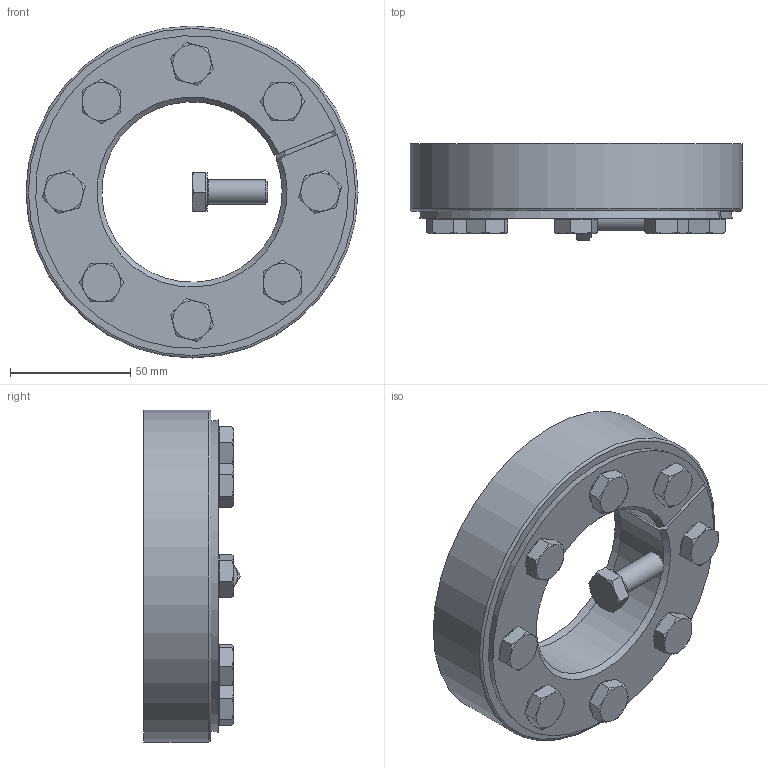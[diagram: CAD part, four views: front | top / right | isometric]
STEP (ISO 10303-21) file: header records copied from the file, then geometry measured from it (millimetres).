
FILE_DESCRIPTION( ( 'Unknown' ), '1' );
FILE_NAME( 'C:/Dokumente und Einstellungen/Sven/Desktop/homepage/cad - homepage/KBS19-1/KBS 19_1 - 75 x 138.stp', 'Unknown', ( 'Unknown' ), ( 'Unknown' ), 'XStep 1.0', 'Unknown', ' ' );
FILE_SCHEMA( ( 'automotive_design' ) );
Length unit declared in the file: millimetre
Products named in the file (3): Assem1; KBS 19_1 - 75 x 138; ISO 4017 - M10 x 25-N
Bounding box: 138 x 40.24 x 138 mm (x, y, z)
Volume: 629895.8 mm3; surface area: 111680.3 mm2
Topology: 11 solids, 11 shells, 271 faces, 606 edges, 366 vertices
Faces by surface type: plane 153, cone 69, cylinder 38, torus 11
Full cylindrical faces by diameter (mm): 10 x25, 16 x9, 138 x2
Entity records: 1674 total; most frequent: CARTESIAN_POINT 305, DIRECTION 240, ORIENTED_EDGE 198, AXIS2_PLACEMENT_3D 101, EDGE_CURVE 99, EDGE_LOOP 81, VERTEX_POINT 70, FACE_OUTER_BOUND 61
